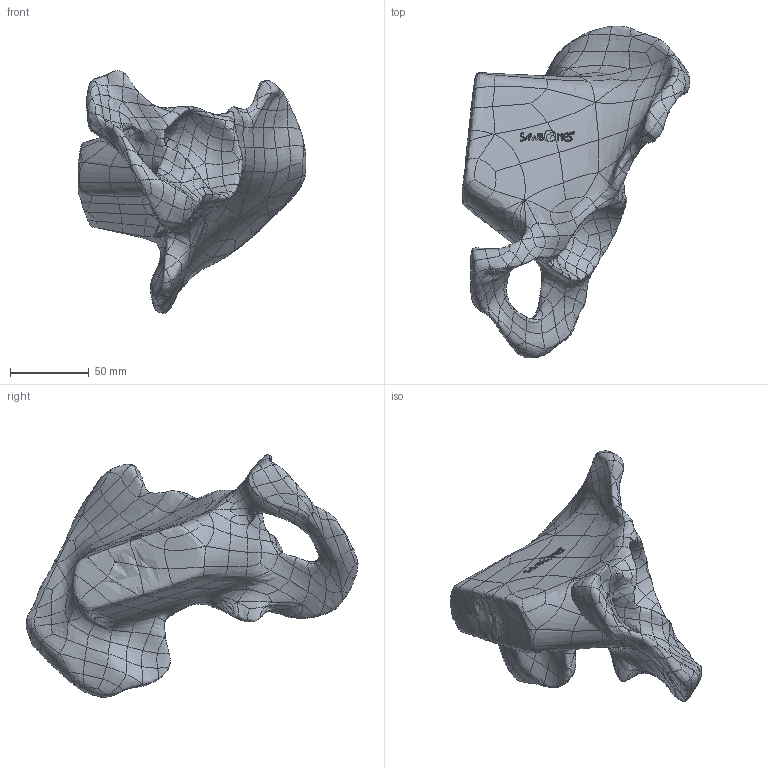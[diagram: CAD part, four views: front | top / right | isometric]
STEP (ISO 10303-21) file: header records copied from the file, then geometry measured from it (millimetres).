
FILE_DESCRIPTION (( 'STEP AP203' ), '1' );
FILE_NAME ('1306.STEP', '2025-06-24T17:26:39', ( '' ), ( '' ), 'SwSTEP 2.0', 'SolidWorks 2024', '' );
FILE_SCHEMA (( 'CONFIG_CONTROL_DESIGN' ));
Products named in the file (1): 1306
Bounding box: 144.6 x 210.66 x 153.89 mm (x, y, z)
Volume: 600062.4 mm3; surface area: 70579.4 mm2
Topology: 1 solids, 1 shells, 799 faces, 1765 edges, 979 vertices
Faces by surface type: bspline 797, plane 2
Entity records: 88990 total; most frequent: CARTESIAN_POINT 77639, ORIENTED_EDGE 3530, EDGE_CURVE 1765, B_SPLINE_CURVE_WITH_KNOTS 1765, VERTEX_POINT 979, EDGE_LOOP 812, ADVANCED_FACE 799, FACE_OUTER_BOUND 799
